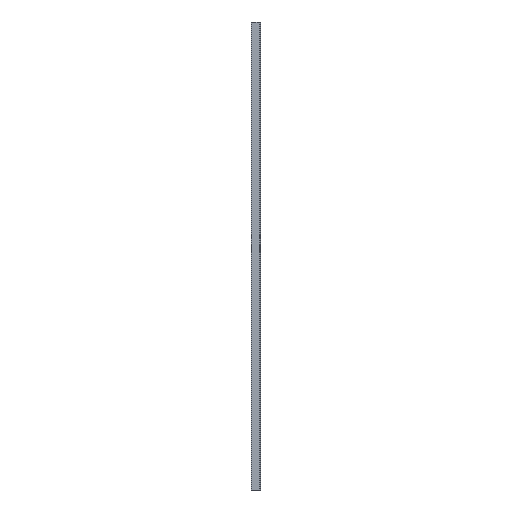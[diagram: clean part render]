
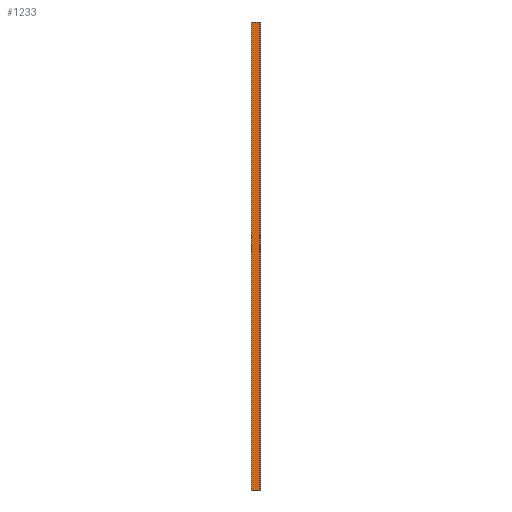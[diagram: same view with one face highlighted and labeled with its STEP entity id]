
A CAD part, left-side view. The second image highlights one B-rep face of the part: STEP entity #1233.
In plain terms, the highlighted planar face has unit normal (-1, 0, 0).
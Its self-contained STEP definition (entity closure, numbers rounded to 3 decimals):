
#40=FACE_OUTER_BOUND('',#102,.T.);
#102=EDGE_LOOP('',(#856,#857,#858,#859));
#194=LINE('',#1768,#368);
#195=LINE('',#1771,#369);
#196=LINE('',#1773,#370);
#197=LINE('',#1774,#371);
#368=VECTOR('',#1441,10.);
#369=VECTOR('',#1444,10.);
#370=VECTOR('',#1445,10.);
#371=VECTOR('',#1446,10.);
#528=VERTEX_POINT('',#1764);
#529=VERTEX_POINT('',#1766);
#530=VERTEX_POINT('',#1770);
#531=VERTEX_POINT('',#1772);
#662=EDGE_CURVE('',#528,#529,#194,.T.);
#663=EDGE_CURVE('',#530,#528,#195,.T.);
#664=EDGE_CURVE('',#531,#529,#196,.T.);
#665=EDGE_CURVE('',#530,#531,#197,.T.);
#856=ORIENTED_EDGE('',*,*,#663,.T.);
#857=ORIENTED_EDGE('',*,*,#662,.T.);
#858=ORIENTED_EDGE('',*,*,#664,.F.);
#859=ORIENTED_EDGE('',*,*,#665,.F.);
#1174=PLANE('',#1315);
#1233=ADVANCED_FACE('',(#40),#1174,.T.);
#1315=AXIS2_PLACEMENT_3D('',#1769,#1442,#1443);
#1441=DIRECTION('',(0.,0.,1.));
#1442=DIRECTION('center_axis',(-1.,0.,0.));
#1443=DIRECTION('ref_axis',(0.,-1.,0.));
#1444=DIRECTION('',(0.,-1.,0.));
#1445=DIRECTION('',(0.,-1.,0.));
#1446=DIRECTION('',(0.,0.,1.));
#1764=CARTESIAN_POINT('',(-3.8,-4.576,0.));
#1766=CARTESIAN_POINT('',(-3.8,-4.576,1000.));
#1768=CARTESIAN_POINT('',(-3.8,-4.576,0.));
#1769=CARTESIAN_POINT('Origin',(-3.8,14.2,0.));
#1770=CARTESIAN_POINT('',(-3.8,14.2,0.));
#1771=CARTESIAN_POINT('',(-3.8,14.2,0.));
#1772=CARTESIAN_POINT('',(-3.8,14.2,1000.));
#1773=CARTESIAN_POINT('',(-3.8,14.2,1000.));
#1774=CARTESIAN_POINT('',(-3.8,14.2,0.));
